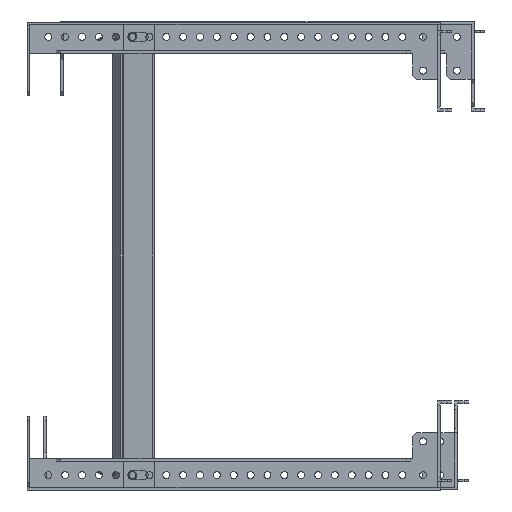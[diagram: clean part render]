
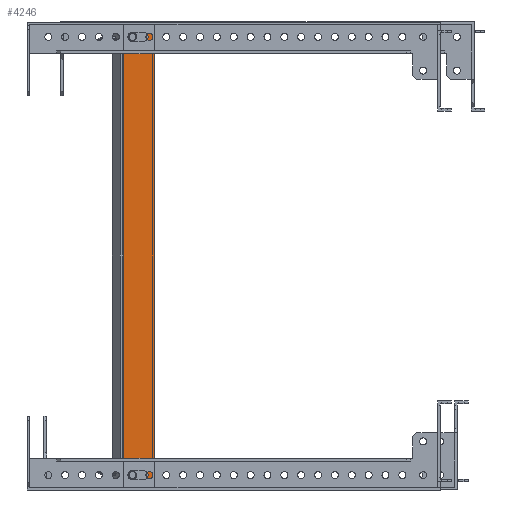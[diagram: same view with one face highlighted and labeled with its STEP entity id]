
A CAD part, front view. The second image highlights one B-rep face of the part: STEP entity #4246.
In plain terms, the highlighted planar face has unit normal (0, -1, 0).
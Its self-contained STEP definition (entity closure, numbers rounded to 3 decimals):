
#378 = ORIENTED_EDGE ( 'NONE', *, *, #10759, .F. ) ;
#638 = CARTESIAN_POINT ( 'NONE',  ( 1112.302, -254., -87.5 ) ) ;
#721 = CARTESIAN_POINT ( 'NONE',  ( 1128.304, -254., -100.859 ) ) ;
#844 = EDGE_CURVE ( 'NONE', #2437, #12086, #18676, .T. ) ;
#913 = ORIENTED_EDGE ( 'NONE', *, *, #19855, .F. ) ;
#1005 = EDGE_CURVE ( 'NONE', #21637, #20152, #7051, .T. ) ;
#1010 = DIRECTION ( 'NONE',  ( -1., 0., 0. ) ) ;
#1053 = DIRECTION ( 'NONE',  ( -1., 0., 0. ) ) ;
#1068 = VERTEX_POINT ( 'NONE', #22085 ) ;
#1127 = CARTESIAN_POINT ( 'NONE',  ( 1105.802, -254., -97.5 ) ) ;
#1642 = AXIS2_PLACEMENT_3D ( 'NONE', #22617, #16399, #3670 ) ;
#1785 = VERTEX_POINT ( 'NONE', #25556 ) ;
#2101 = CIRCLE ( 'NONE', #19378, 3.5 ) ;
#2190 = DIRECTION ( 'NONE',  ( 0., -1., 0. ) ) ;
#2437 = VERTEX_POINT ( 'NONE', #24062 ) ;
#2487 = DIRECTION ( 'NONE',  ( -1., 0., 0. ) ) ;
#2794 = EDGE_CURVE ( 'NONE', #14797, #1785, #9773, .T. ) ;
#3030 = VECTOR ( 'NONE', #17095, 1000. ) ;
#3670 = DIRECTION ( 'NONE',  ( 1., 0., 0. ) ) ;
#3881 = AXIS2_PLACEMENT_3D ( 'NONE', #7813, #25747, #10158 ) ;
#4246 = ADVANCED_FACE ( 'NONE', ( #5636, #13682, #14418 ), #21753, .F. ) ;
#4491 = CARTESIAN_POINT ( 'NONE',  ( 1120.302, -254., 241. ) ) ;
#4593 = CARTESIAN_POINT ( 'NONE',  ( 1112.302, -254., -91. ) ) ;
#4704 = VECTOR ( 'NONE', #23200, 1000. ) ;
#4835 = DIRECTION ( 'NONE',  ( 1., 0., 0. ) ) ;
#5326 = CARTESIAN_POINT ( 'NONE',  ( 1112.302, -254., 234. ) ) ;
#5515 = CARTESIAN_POINT ( 'NONE',  ( 1112.302, -254., 237.5 ) ) ;
#5636 = FACE_OUTER_BOUND ( 'NONE', #12421, .T. ) ;
#5894 = CARTESIAN_POINT ( 'NONE',  ( 1105.802, -254., -97.5 ) ) ;
#6473 = AXIS2_PLACEMENT_3D ( 'NONE', #11021, #19085, #1010 ) ;
#6801 = DIRECTION ( 'NONE',  ( 0., -1., 0. ) ) ;
#6809 = CARTESIAN_POINT ( 'NONE',  ( 1112.302, -254., 241. ) ) ;
#6823 = CARTESIAN_POINT ( 'NONE',  ( 1108.802, -254., 237.5 ) ) ;
#7051 = LINE ( 'NONE', #5326, #3030 ) ;
#7767 = EDGE_CURVE ( 'NONE', #2437, #7800, #14682, .T. ) ;
#7800 = VERTEX_POINT ( 'NONE', #5894 ) ;
#7813 = CARTESIAN_POINT ( 'NONE',  ( 1120.302, -254., 237.5 ) ) ;
#8280 = ORIENTED_EDGE ( 'NONE', *, *, #7767, .F. ) ;
#8377 = DIRECTION ( 'NONE',  ( -1., 0., 0. ) ) ;
#8646 = CARTESIAN_POINT ( 'NONE',  ( 1120.302, -254., -87.5 ) ) ;
#8772 = CARTESIAN_POINT ( 'NONE',  ( 1112.302, -254., 234. ) ) ;
#8776 = LINE ( 'NONE', #6809, #20012 ) ;
#8943 = LINE ( 'NONE', #22679, #4704 ) ;
#8989 = ORIENTED_EDGE ( 'NONE', *, *, #14390, .T. ) ;
#9134 = CIRCLE ( 'NONE', #19262, 3.5 ) ;
#9291 = CARTESIAN_POINT ( 'NONE',  ( 1120.302, -254., -84. ) ) ;
#9474 = EDGE_LOOP ( 'NONE', ( #20128, #22144, #24122, #12173, #25112 ) ) ;
#9692 = AXIS2_PLACEMENT_3D ( 'NONE', #638, #25056, #2487 ) ;
#9729 = ORIENTED_EDGE ( 'NONE', *, *, #844, .T. ) ;
#9773 = LINE ( 'NONE', #11628, #20189 ) ;
#10158 = DIRECTION ( 'NONE',  ( -1., 0., 0. ) ) ;
#10207 = ORIENTED_EDGE ( 'NONE', *, *, #19294, .T. ) ;
#10580 = CARTESIAN_POINT ( 'NONE',  ( 1120.302, -254., 234. ) ) ;
#10734 = CARTESIAN_POINT ( 'NONE',  ( 1150.146, -254., -97.5 ) ) ;
#10759 = EDGE_CURVE ( 'NONE', #14660, #12086, #14235, .T. ) ;
#10865 = VERTEX_POINT ( 'NONE', #4491 ) ;
#11021 = CARTESIAN_POINT ( 'NONE',  ( 1112.302, -254., 237.5 ) ) ;
#11628 = CARTESIAN_POINT ( 'NONE',  ( 1112.302, -254., -91. ) ) ;
#12086 = VERTEX_POINT ( 'NONE', #19749 ) ;
#12173 = ORIENTED_EDGE ( 'NONE', *, *, #14026, .F. ) ;
#12421 = EDGE_LOOP ( 'NONE', ( #378, #913, #8280, #9729 ) ) ;
#13041 = EDGE_CURVE ( 'NONE', #18535, #1068, #24175, .T. ) ;
#13284 = VERTEX_POINT ( 'NONE', #9291 ) ;
#13682 = FACE_BOUND ( 'NONE', #24050, .T. ) ;
#13915 = CIRCLE ( 'NONE', #9692, 3.5 ) ;
#13941 = ORIENTED_EDGE ( 'NONE', *, *, #1005, .T. ) ;
#13977 = CIRCLE ( 'NONE', #3881, 3.5 ) ;
#14026 = EDGE_CURVE ( 'NONE', #13284, #18249, #8943, .T. ) ;
#14235 = LINE ( 'NONE', #18223, #19187 ) ;
#14390 = EDGE_CURVE ( 'NONE', #1068, #10865, #8776, .T. ) ;
#14418 = FACE_BOUND ( 'NONE', #9474, .T. ) ;
#14443 = CARTESIAN_POINT ( 'NONE',  ( 1112.302, -254., -87.5 ) ) ;
#14660 = VERTEX_POINT ( 'NONE', #19328 ) ;
#14682 = LINE ( 'NONE', #10734, #26111 ) ;
#14797 = VERTEX_POINT ( 'NONE', #4593 ) ;
#14829 = DIRECTION ( 'NONE',  ( 0., 0., 1. ) ) ;
#16231 = DIRECTION ( 'NONE',  ( 1., 0., 0. ) ) ;
#16318 = EDGE_CURVE ( 'NONE', #20152, #18535, #9134, .T. ) ;
#16399 = DIRECTION ( 'NONE',  ( 0., 1., 0. ) ) ;
#17095 = DIRECTION ( 'NONE',  ( -1., 0., 0. ) ) ;
#18003 = AXIS2_PLACEMENT_3D ( 'NONE', #14443, #2190, #8377 ) ;
#18223 = CARTESIAN_POINT ( 'NONE',  ( 1105.802, -254., 247.5 ) ) ;
#18249 = VERTEX_POINT ( 'NONE', #20333 ) ;
#18271 = CARTESIAN_POINT ( 'NONE',  ( 1108.802, -254., -87.5 ) ) ;
#18535 = VERTEX_POINT ( 'NONE', #6823 ) ;
#18676 = LINE ( 'NONE', #721, #19019 ) ;
#18996 = DIRECTION ( 'NONE',  ( 0., 1., 0. ) ) ;
#19019 = VECTOR ( 'NONE', #14829, 1000. ) ;
#19085 = DIRECTION ( 'NONE',  ( 0., 1., 0. ) ) ;
#19187 = VECTOR ( 'NONE', #16231, 1000. ) ;
#19262 = AXIS2_PLACEMENT_3D ( 'NONE', #5515, #18996, #1053 ) ;
#19294 = EDGE_CURVE ( 'NONE', #10865, #21637, #13977, .T. ) ;
#19328 = CARTESIAN_POINT ( 'NONE',  ( 1105.802, -254., 247.5 ) ) ;
#19378 = AXIS2_PLACEMENT_3D ( 'NONE', #8646, #6801, #20660 ) ;
#19749 = CARTESIAN_POINT ( 'NONE',  ( 1128.304, -254., 247.5 ) ) ;
#19855 = EDGE_CURVE ( 'NONE', #7800, #14660, #23540, .T. ) ;
#20012 = VECTOR ( 'NONE', #4835, 1000. ) ;
#20112 = EDGE_CURVE ( 'NONE', #20892, #14797, #25594, .T. ) ;
#20128 = ORIENTED_EDGE ( 'NONE', *, *, #2794, .F. ) ;
#20152 = VERTEX_POINT ( 'NONE', #8772 ) ;
#20189 = VECTOR ( 'NONE', #20204, 1000. ) ;
#20204 = DIRECTION ( 'NONE',  ( 1., 0., 0. ) ) ;
#20333 = CARTESIAN_POINT ( 'NONE',  ( 1112.302, -254., -84. ) ) ;
#20641 = DIRECTION ( 'NONE',  ( -1., 0., 0. ) ) ;
#20660 = DIRECTION ( 'NONE',  ( -1., 0., 0. ) ) ;
#20892 = VERTEX_POINT ( 'NONE', #18271 ) ;
#21319 = DIRECTION ( 'NONE',  ( 0., 0., 1. ) ) ;
#21389 = VECTOR ( 'NONE', #21319, 1000. ) ;
#21637 = VERTEX_POINT ( 'NONE', #10580 ) ;
#21753 = PLANE ( 'NONE',  #1642 ) ;
#21952 = ORIENTED_EDGE ( 'NONE', *, *, #13041, .T. ) ;
#22085 = CARTESIAN_POINT ( 'NONE',  ( 1112.302, -254., 241. ) ) ;
#22144 = ORIENTED_EDGE ( 'NONE', *, *, #20112, .F. ) ;
#22617 = CARTESIAN_POINT ( 'NONE',  ( 1150.77, -254., 75. ) ) ;
#22679 = CARTESIAN_POINT ( 'NONE',  ( 1112.302, -254., -84. ) ) ;
#23200 = DIRECTION ( 'NONE',  ( -1., 0., 0. ) ) ;
#23540 = LINE ( 'NONE', #1127, #21389 ) ;
#24050 = EDGE_LOOP ( 'NONE', ( #24799, #21952, #8989, #10207, #13941 ) ) ;
#24062 = CARTESIAN_POINT ( 'NONE',  ( 1128.304, -254., -97.5 ) ) ;
#24122 = ORIENTED_EDGE ( 'NONE', *, *, #25936, .F. ) ;
#24175 = CIRCLE ( 'NONE', #6473, 3.5 ) ;
#24799 = ORIENTED_EDGE ( 'NONE', *, *, #16318, .T. ) ;
#25056 = DIRECTION ( 'NONE',  ( 0., -1., 0. ) ) ;
#25112 = ORIENTED_EDGE ( 'NONE', *, *, #25198, .F. ) ;
#25198 = EDGE_CURVE ( 'NONE', #1785, #13284, #2101, .T. ) ;
#25556 = CARTESIAN_POINT ( 'NONE',  ( 1120.302, -254., -91. ) ) ;
#25594 = CIRCLE ( 'NONE', #18003, 3.5 ) ;
#25747 = DIRECTION ( 'NONE',  ( 0., 1., 0. ) ) ;
#25936 = EDGE_CURVE ( 'NONE', #18249, #20892, #13915, .T. ) ;
#26111 = VECTOR ( 'NONE', #20641, 1000. ) ;
